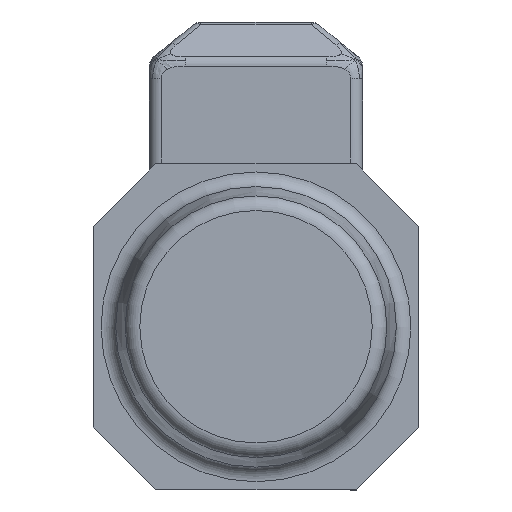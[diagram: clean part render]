
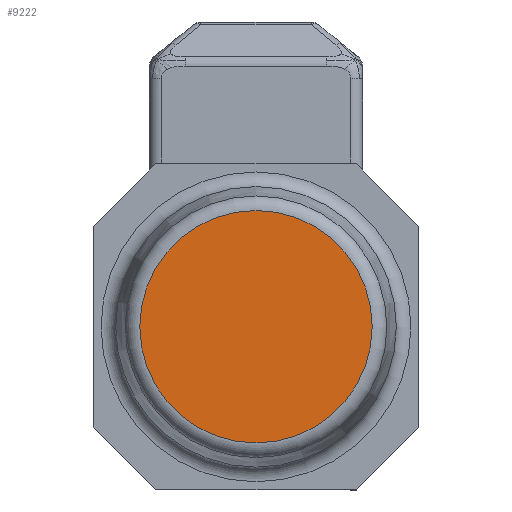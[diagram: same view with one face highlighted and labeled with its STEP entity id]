
A CAD part, top view. The second image highlights one B-rep face of the part: STEP entity #9222.
In plain terms, the highlighted planar face has unit normal (0, 0, 1) as drawn and (1, 0, 0) by its records, which use the part's own axes.
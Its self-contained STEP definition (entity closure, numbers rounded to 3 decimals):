
#9199=CARTESIAN_POINT('',(197.,0.0,39.216));
#9200=VERTEX_POINT('',#9199);
#9201=CARTESIAN_POINT('',(197.,0.0,0.0));
#9202=DIRECTION('',(-1.0,0.0,0.0));
#9203=DIRECTION('',(0.0,0.0,-1.0));
#9204=AXIS2_PLACEMENT_3D('',#9201,#9202,#9203);
#9205=CIRCLE('',#9204,39.216);
#9206=EDGE_CURVE('',#9200,#9200,#9205,.T.);
#9214=CARTESIAN_POINT('',(197.,0.0,21.75));
#9215=DIRECTION('',(1.0,0.0,0.0));
#9216=DIRECTION('',(0.0,0.0,-1.0));
#9217=AXIS2_PLACEMENT_3D('',#9214,#9215,#9216);
#9218=PLANE('',#9217);
#9219=ORIENTED_EDGE('',*,*,#9206,.F.);
#9220=EDGE_LOOP('',(#9219));
#9221=FACE_OUTER_BOUND('',#9220,.T.);
#9222=ADVANCED_FACE('',(#9221),#9218,.T.);
